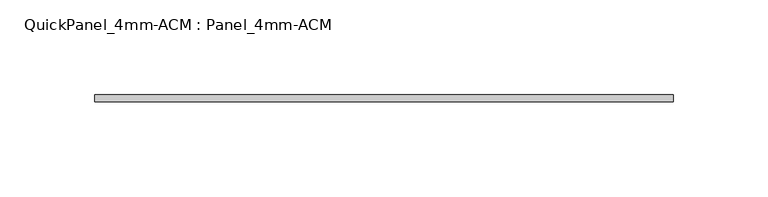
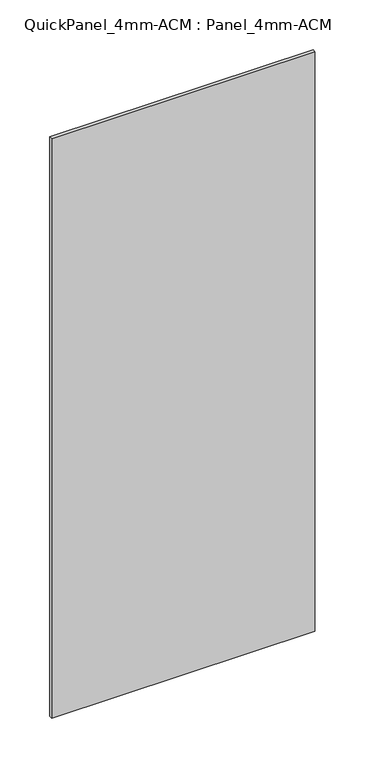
"""IFC4 building model written with IfcOpenShell, lengths in millimetres: plate geometry, QuickPanel_4mm-ACM : Panel_4mm-ACM."""

import ifcopenshell
import ifcopenshell.guid

model = None  # the IFC model being written
_history = None  # IfcOwnerHistory: only IFC2X3 demands one
_inside = {}  # id of a spatial element -> (the spatial element, [elements in it])
_under = {}  # id of a project, library or spatial element -> (it, [spatial elements below it])
_declared = {}  # id of a project -> (the project, [libraries it declares])
_typed = {}  # id of a type object -> (the type object, [elements of that type])
_made_of = {}  # id of a material, layer set ... -> (it, [elements and type objects made of it])


def new_model(schema):
    """Start an empty IFC model of exactly this schema.

    Asked for "IFC4X3", IfcOpenShell would pick the latest addendum, in which some entities
    have other attributes; the version numbers below select the first issue.
    IFC2X3 requires an IfcOwnerHistory on every rooted entity: one is made here for all.
    """
    global model, _history
    if schema == "IFC4X3":
        model = ifcopenshell.file(schema_version=(4, 3, 0, 0))
    else:
        model = ifcopenshell.file(schema=schema)
    _inside.clear()
    _under.clear()
    _declared.clear()
    _typed.clear()
    _made_of.clear()
    _history = None
    if model.schema == "IFC2X3":
        org = make("IfcOrganization", Name="unknown")
        user = make(
            "IfcPersonAndOrganization",
            ThePerson=make("IfcPerson", FamilyName="unknown"),
            TheOrganization=org,
        )
        app = make(
            "IfcApplication",
            ApplicationDeveloper=org,
            Version="unknown",
            ApplicationFullName="unknown",
            ApplicationIdentifier="unknown",
        )
        _history = make(
            "IfcOwnerHistory",
            OwningUser=user,
            OwningApplication=app,
            ChangeAction="ADDED",
            CreationDate=0,
        )
    return model


def make(cls, **values):
    """One entity of the class cls with the attributes given. An attribute that is None is left unset."""
    return model.create_entity(
        cls, **{name: value for name, value in values.items() if value is not None}
    )


def rooted(cls, **values):
    """An entity with a GlobalId (a new one), such as an element, a storey or a relation."""
    return make(cls, GlobalId=ifcopenshell.guid.new(), OwnerHistory=_history, **values)


def si_unit(unit_type, name, prefix=None):
    """IfcSIUnit, for example si_unit("LENGTHUNIT", "METRE", prefix="MILLI")."""
    return make("IfcSIUnit", UnitType=unit_type, Prefix=prefix, Name=name)


def assignment(units):
    """IfcUnitAssignment: the units of a project."""
    return None if units is None else make("IfcUnitAssignment", Units=units)


def point(xyz):
    """IfcCartesianPoint."""
    return None if xyz is None else make("IfcCartesianPoint", Coordinates=xyz)


def direction(xyz):
    """IfcDirection."""
    return None if xyz is None else make("IfcDirection", DirectionRatios=xyz)


def frame(location, z_axis=None, x_axis=None):
    """IfcAxis2Placement3D, a coordinate frame: its origin and axes. An axis left out is left unset."""
    return make(
        "IfcAxis2Placement3D",
        Location=point(location),
        Axis=direction(z_axis),
        RefDirection=direction(x_axis),
    )


def origin():
    """The frame at (0, 0, 0) with its axes left unset."""
    return frame((0.0, 0.0, 0.0))


def origin_with_axes():
    """The frame at (0, 0, 0) with the z axis (0, 0, 1) and the x axis (1, 0, 0) written out."""
    return frame((0.0, 0.0, 0.0), z_axis=(0.0, 0.0, 1.0), x_axis=(1.0, 0.0, 0.0))


def place(relative_to, where):
    """IfcLocalPlacement: puts the frame where relative to a parent placement (None: the world)."""
    return make(
        "IfcLocalPlacement", PlacementRelTo=relative_to, RelativePlacement=where
    )


def context(
    kind, dimensions, precision=None, world=None, true_north=None, identifier=None
):
    """IfcGeometricRepresentationContext, for example the 3D "Model" context."""
    return make(
        "IfcGeometricRepresentationContext",
        ContextIdentifier=identifier,
        ContextType=kind,
        CoordinateSpaceDimension=dimensions,
        Precision=precision,
        WorldCoordinateSystem=world,
        TrueNorth=true_north,
    )


def project(units=None, contexts=None):
    """IfcProject with its units and contexts."""
    return rooted(
        "IfcProject",
        Name="project",
        RepresentationContexts=contexts,
        UnitsInContext=assignment(units),
    )


def spatial(cls, under=None, at=None, **own):
    """A site, building, storey or space (cls), placed at a placement, below another one or the project."""
    s = rooted(cls, ObjectPlacement=at, **own)
    if under is not None:
        _under.setdefault(under.id(), (under, []))[1].append(s)
    return s


def polyline(points):
    """IfcPolyline through the points."""
    return make("IfcPolyline", Points=[point(p) for p in points])


def outline(outer, holes=None, kind="AREA"):
    """IfcArbitraryClosedProfileDef: a profile drawn as a closed curve; with holes, ...WithVoids."""
    if holes is None:
        return make("IfcArbitraryClosedProfileDef", ProfileType=kind, OuterCurve=outer)
    return make(
        "IfcArbitraryProfileDefWithVoids",
        ProfileType=kind,
        OuterCurve=outer,
        InnerCurves=holes,
    )


def extrude(swept, where, along, depth):
    """IfcExtrudedAreaSolid: the profile swept, set in the frame where, extruded along a direction by depth."""
    return make(
        "IfcExtrudedAreaSolid",
        SweptArea=swept,
        Position=where,
        ExtrudedDirection=direction(along),
        Depth=depth,
    )


def shape(context_of_items, identifier, shape_type, items):
    """IfcShapeRepresentation: the items that make up one representation, for example the "Body"."""
    return make(
        "IfcShapeRepresentation",
        ContextOfItems=context_of_items,
        RepresentationIdentifier=identifier,
        RepresentationType=shape_type,
        Items=items,
    )


def source(mapping_origin, context_of_items, identifier, shape_type, items):
    """IfcRepresentationMap: a shape defined once, which mapped items show again and again."""
    return make(
        "IfcRepresentationMap",
        MappingOrigin=mapping_origin,
        MappedRepresentation=shape(context_of_items, identifier, shape_type, items),
    )


def transform(
    local_origin,
    x_axis=None,
    y_axis=None,
    z_axis=None,
    scale=None,
    scale2=None,
    scale3=None,
    uniform=True,
):
    """IfcCartesianTransformationOperator3D, or its non-uniform kind. x_axis, y_axis, z_axis: its Axis1, 2, 3."""
    if uniform:
        return make(
            "IfcCartesianTransformationOperator3D",
            Axis1=direction(x_axis),
            Axis2=direction(y_axis),
            LocalOrigin=point(local_origin),
            Scale=scale,
            Axis3=direction(z_axis),
        )
    return make(
        "IfcCartesianTransformationOperator3DnonUniform",
        Axis1=direction(x_axis),
        Axis2=direction(y_axis),
        LocalOrigin=point(local_origin),
        Scale=scale,
        Axis3=direction(z_axis),
        Scale2=scale2,
        Scale3=scale3,
    )


def mapped(mapping_source, mapping_target):
    """IfcMappedItem: shows the shape of a source again, moved by a transform."""
    return make(
        "IfcMappedItem", MappingSource=mapping_source, MappingTarget=mapping_target
    )


def made_of(thing, what):
    """Note that an element or type object is made of a material, layer set ...; save() writes the relation."""
    if what is not None:
        _made_of.setdefault(what.id(), (what, []))[1].append(thing)
    return thing


def element(
    cls,
    number,
    at=None,
    inside=None,
    cuts=None,
    type_object=None,
    material=None,
    context=None,
    identifier="Body",
    shape_type=None,
    held_by="IfcProductDefinitionShape",
    body=None,
    shapes=None,
    **own,
):
    """One element of the class cls, such as IfcWall. Its Tag is "e" and its number.

    at: its placement. inside: the storey or other place that contains it. cuts: it is an
    opening in that element (IfcRelVoidsElement). A single representation is given by context,
    identifier, shape_type and body (its items); several are given by shapes. held_by: the class
    of the entity that holds the representations. save() writes the other relations.
    """
    e = rooted(cls, Tag="e%d" % number, ObjectPlacement=at, **own)
    if body is not None:
        shapes = [shape(context, identifier, shape_type, body)]
    if shapes is not None:
        e.Representation = make(held_by, Representations=shapes)
    if inside is not None:
        _inside.setdefault(inside.id(), (inside, []))[1].append(e)
    if cuts is not None:
        rooted(
            "IfcRelVoidsElement", RelatingBuildingElement=cuts, RelatedOpeningElement=e
        )
    if type_object is not None:
        _typed.setdefault(type_object.id(), (type_object, []))[1].append(e)
    return made_of(e, material)


def aggregate(whole, parts):
    """IfcRelAggregates: a whole, such as a stair, and the parts it consists of."""
    return rooted("IfcRelAggregates", RelatingObject=whole, RelatedObjects=parts)


def save(model, path):
    """Write the relations noted so far, then the file.

    IfcRelAggregates (storeys below a building ...), IfcRelContainedInSpatialStructure (elements
    in a storey), IfcRelDefinesByType, IfcRelAssociatesMaterial and IfcRelDeclares: one each for
    every whole, place, type object, material and project.
    """
    for whole, parts in _under.values():
        aggregate(whole, parts)
    for where, things in _inside.values():
        rooted(
            "IfcRelContainedInSpatialStructure",
            RelatedElements=things,
            RelatingStructure=where,
        )
    for kind, things in _typed.values():
        rooted("IfcRelDefinesByType", RelatedObjects=things, RelatingType=kind)
    for what, things in _made_of.values():
        rooted("IfcRelAssociatesMaterial", RelatedObjects=things, RelatingMaterial=what)
    for by, libraries in _declared.values():
        rooted("IfcRelDeclares", RelatingContext=by, RelatedDefinitions=libraries)
    model.write(path)


def quickpanel_4mm_acm_panel_4mm_acm_21645d57(model_context):
    return source(origin(), model_context, "Body", "SweptSolid", [
        extrude(outline(polyline([(-152.665908, -6.096), (152.665908, -6.096), (152.665908, -9.906), (-152.665908, -9.906), (-152.665908, -6.096)])), origin_with_axes(), (0.0, 0.0, 1.0), 710.2391547),
    ])


if __name__ == "__main__":
    model = new_model("IFC4")
    model_context = context("Model", 3, world=origin())
    ifc_project = project(units=[si_unit("LENGTHUNIT", "METRE", prefix="MILLI")], contexts=[model_context])
    site = spatial("IfcSite", under=ifc_project)
    building = spatial("IfcBuilding", under=site)
    placement = place(None, origin())
    quickpanel_4mm_acm_panel_4mm_acm_shape = quickpanel_4mm_acm_panel_4mm_acm_21645d57(model_context)
    element("IfcPlate", 1, ObjectType="QuickPanel_4mm-ACM : Panel_4mm-ACM", at=placement, inside=building, context=model_context, shape_type="MappedRepresentation", body=[
        mapped(quickpanel_4mm_acm_panel_4mm_acm_shape, transform((0.0, 0.0, 0.0), x_axis=(1.0, 0.0, 0.0), y_axis=(0.0, 1.0, 0.0), z_axis=(0.0, 0.0, 1.0))),
    ])
    save(model, "model.ifc")
